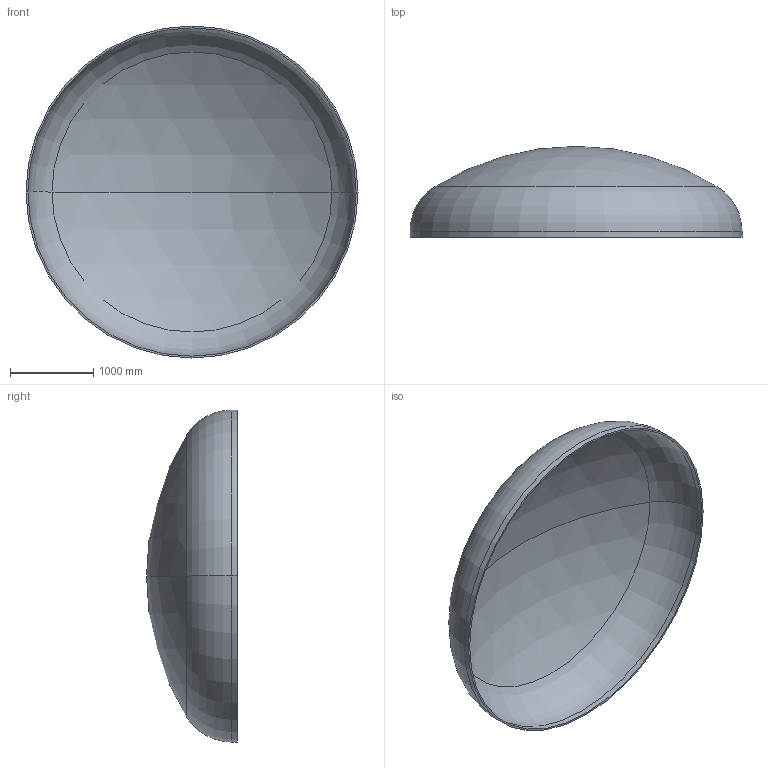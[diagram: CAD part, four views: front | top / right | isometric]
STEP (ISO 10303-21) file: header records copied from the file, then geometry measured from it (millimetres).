
FILE_DESCRIPTION (( 'STEP AP203' ), '1' );
FILE_NAME ('DIN 28013 Korbbogenform_-_Boden DIN 28013 - 4000 x 70 - I - s=22.step', '2016-07-01T22:09:14', ( '' ), ( '' ), 'SwSTEP 2.0', 'SolidWorks 2013', '' );
FILE_SCHEMA (( 'CONFIG_CONTROL_DESIGN' ));
Length unit declared in the file: millimetre
Products named in the file (1): DIN 28013 Korbbogenform_-_Boden DIN 28013 - 4000 x 70 - I - s=22
Bounding box: 4000 x 1095.54 x 4000 mm (x, y, z)
Volume: 399255609.3 mm3; surface area: 36571903.5 mm2
Topology: 1 solids, 1 shells, 13 faces, 24 edges, 14 vertices
Faces by surface type: torus 4, cylinder 4, sphere 4, plane 1
Entity records: 407 total; most frequent: DIRECTION 72, CARTESIAN_POINT 52, ORIENTED_EDGE 48, AXIS2_PLACEMENT_3D 34, EDGE_CURVE 24, CIRCLE 20, EDGE_LOOP 14, VERTEX_POINT 14
